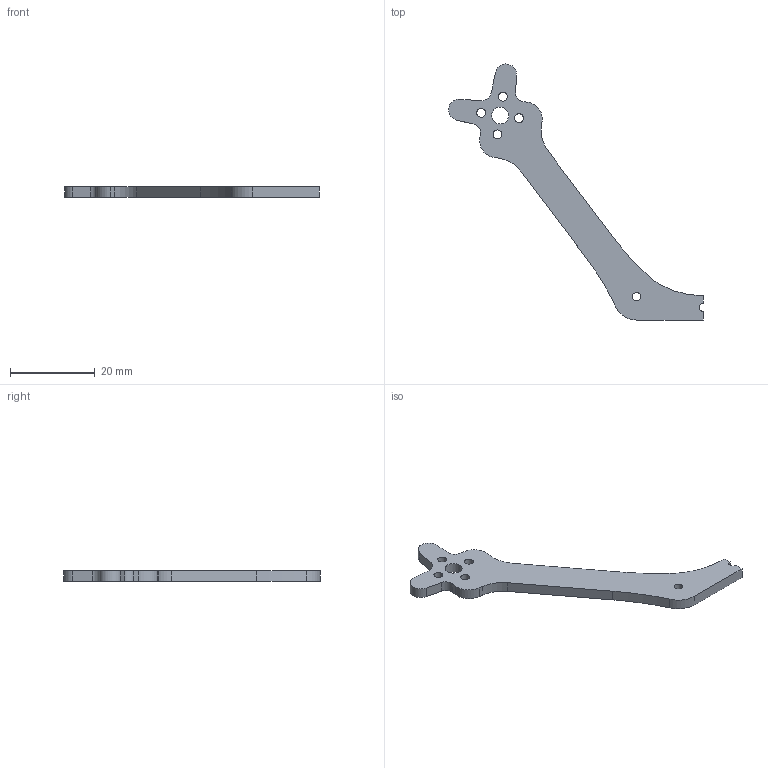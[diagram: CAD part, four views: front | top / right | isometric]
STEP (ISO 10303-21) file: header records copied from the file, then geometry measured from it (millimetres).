
FILE_DESCRIPTION(/* description */ (''),/* implementation_level */ '2;1');
FILE_NAME(/* name */ 'GoFlyPro - 3.5-Zoll - Arm - 9mm.step',/* time_stamp */ '2026-07-04T12:32:41+02:00',/* author */ (''),/* organization */ (''),/* preprocessor_version */ 'ST-DEVELOPER v20.1',/* originating_system */ 'Autodesk Translation Framework v15.8.0.0',/* authorisation */ '');
FILE_SCHEMA (('AUTOMOTIVE_DESIGN { 1 0 10303 214 3 1 1 }'));
Length unit declared in the file: millimetre
Products named in the file (1): GoFlyPro - 3.5-Zoll - Arm - 9mm
Bounding box: 60.11 x 60.39 x 2.5 mm (x, y, z)
Volume: 1782.8 mm3; surface area: 2018.6 mm2
Topology: 1 solids, 1 shells, 35 faces, 99 edges, 66 vertices
Faces by surface type: cylinder 17, plane 15, bspline 3
Full cylindrical faces by diameter (mm): 2 x1, 2.1 x4, 4 x1
Entity records: 1220 total; most frequent: CARTESIAN_POINT 216, DIRECTION 205, ORIENTED_EDGE 198, EDGE_CURVE 99, AXIS2_PLACEMENT_3D 73, VERTEX_POINT 66, LINE 59, VECTOR 59
